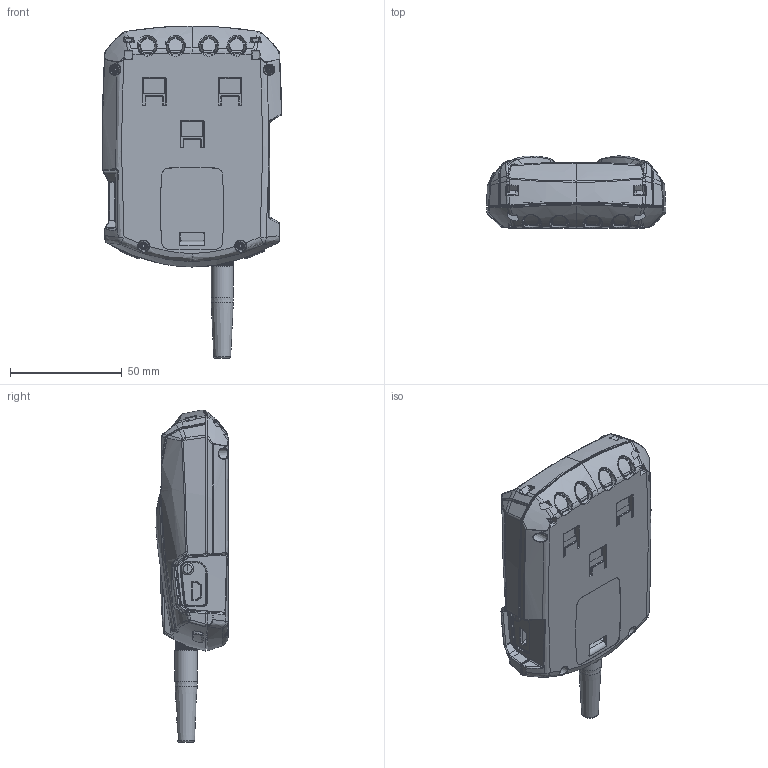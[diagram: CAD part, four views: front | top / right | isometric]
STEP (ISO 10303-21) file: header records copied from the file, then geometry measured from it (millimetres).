
FILE_DESCRIPTION(/* description */ (''),/* implementation_level */ '2;1');
FILE_NAME(/* name */ 'C:\Users\Zambolin\Desktop\PRODOTTI\MYALARM2-3\2D_3D\myalarm2.stp',/* time_stamp */ '2021-04-01T12:10:37+02:00',/* author */ ('zambolin'),/* organization */ (''),/* preprocessor_version */ 'ST-DEVELOPER v18',/* originating_system */ 'Autodesk Inventor 2020',/* authorisation */ '');
FILE_SCHEMA (('AUTOMOTIVE_DESIGN { 1 0 10303 214 3 1 1 }'));
Products named in the file (109): 16870100001; 16870102001_R1(Default_A macchina_); 16870102002_R1(Default_A macchina_); 16870102003_R1(Default_A macchina_); 16870102010(Default_A macchina_); Scheda MY ALARM full(Default_A macchina_); Scheda MY ALARM full(Default_A macchina_)_1; Scheda MY ALARM full(Default_A macchina_)_2; Scheda MY ALARM full(Default_A macchina_)_3; Scheda MY ALARM full(Default_A macchina_)_4; Scheda MY ALARM full(Default_A macchina_)_5; Scheda MY ALARM full(Default_A macchina_)_6; Scheda MY ALARM full(Default_A macchina_)_7; Scheda MY ALARM full(Default_A macchina_)_8; Scheda MY ALARM full(Default_A macchina_)_9; Scheda MY ALARM full(Default_A macchina_)_10; Scheda MY ALARM full(Default_A macchina_)_11; Scheda MY ALARM full(Default_A macchina_)_12; Scheda MY ALARM full(Default_A macchina_)_13; Scheda MY ALARM full(Default_A macchina_)_14; Scheda MY ALARM full(Default_A macchina_)_15; Scheda MY ALARM full(Default_A macchina_)_16; Scheda MY ALARM full(Default_A macchina_)_17; Scheda MY ALARM full(Default_A macchina_)_18; Scheda MY ALARM full(Default_A macchina_)_19; Scheda MY ALARM full(Default_A macchina_)_20; Scheda MY ALARM full(Default_A macchina_)_22; Scheda MY ALARM full(Default_A macchina_)_23; Scheda MY ALARM full(Default_A macchina_)_24; Scheda MY ALARM full(Default_A macchina_)_25; Scheda MY ALARM full(Default_A macchina_)_26; Scheda MY ALARM full(Default_A macchina_)_27; Scheda MY ALARM full(Default_A macchina_)_28; Scheda MY ALARM full(Default_A macchina_)_29; Scheda MY ALARM full(Default_A macchina_)_30; Scheda MY ALARM full(Default_A macchina_)_31; Scheda MY ALARM full(Default_A macchina_)_32; Scheda MY ALARM full(Default_A macchina_)_33; Scheda MY ALARM full(Default_A macchina_)_34; Scheda MY ALARM full(Default_A macchina_)_35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
Assembly tree (108 placements, depth 2):
  16870100001
    16870102001_R1(Default_A macchina_)
    16870102002_R1(Default_A macchina_)
    16870102003_R1(Default_A macchina_)
    16870102010(Default_A macchina_)
    Scheda MY ALARM full(Default_A macchina_)
    Scheda MY ALARM full(Default_A macchina_)_1
    Scheda MY ALARM full(Default_A macchina_)_2
    Scheda MY ALARM full(Default_A macchina_)_3
    Scheda MY ALARM full(Default_A macchina_)_4
    Scheda MY ALARM full(Default_A macchina_)_5
    Scheda MY ALARM full(Default_A macchina_)_6
    Scheda MY ALARM full(Default_A macchina_)_7
    Scheda MY ALARM full(Default_A macchina_)_8
    Scheda MY ALARM full(Default_A macchina_)_9
    Scheda MY ALARM full(Default_A macchina_)_10
    Scheda MY ALARM full(Default_A macchina_)_11
    Scheda MY ALARM full(Default_A macchina_)_12
    Scheda MY ALARM full(Default_A macchina_)_13
    Scheda MY ALARM full(Default_A macchina_)_14
    Scheda MY ALARM full(Default_A macchina_)_15
    Scheda MY ALARM full(Default_A macchina_)_16
    Scheda MY ALARM full(Default_A macchina_)_17
    Scheda MY ALARM full(Default_A macchina_)_18
    Scheda MY ALARM full(Default_A macchina_)_19
    Scheda MY ALARM full(Default_A macchina_)_20
    Scheda MY ALARM full(Default_A macchina_)_22
    Scheda MY ALARM full(Default_A macchina_)_23
    Scheda MY ALARM full(Default_A macchina_)_24
    Scheda MY ALARM full(Default_A macchina_)_25
    Scheda MY ALARM full(Default_A macchina_)_26
    Scheda MY ALARM full(Default_A macchina_)_27
    Scheda MY ALARM full(Default_A macchina_)_28
    Scheda MY ALARM full(Default_A macchina_)_29
    Scheda MY ALARM full(Default_A macchina_)_30
    Scheda MY ALARM full(Default_A macchina_)_31
    Scheda MY ALARM full(Default_A macchina_)_32
    Scheda MY ALARM full(Default_A macchina_)_33
    Scheda MY ALARM full(Default_A macchina_)_34
    Scheda MY ALARM full(Default_A macchina_)_35
    Scheda MY ALARM full(Default_A macchina_)_36
    Scheda MY ALARM full(Default_A macchina_)_37
    Scheda MY ALARM full(Default_A macchina_)_38
    Scheda MY ALARM full(Default_A macchina_)_39
    Scheda MY ALARM full(Default_A macchina_)_40
    Scheda MY ALARM full(Default_A macchina_)_41
    Scheda MY ALARM full(Default_A macchina_)_42
    Scheda MY ALARM full(Default_A macchina_)_43
    Scheda MY ALARM full(Default_A macchina_)_44
    Scheda MY ALARM full(Default_A macchina_)_45
    Scheda MY ALARM full(Default_A macchina_)_46
    Scheda MY ALARM full(Default_A macchina_)_47
    Scheda MY ALARM full(Default_A macchina_)_48
    Scheda MY ALARM full(Default_A macchina_)_49
    Scheda MY ALARM full(Default_A macchina_)_50
    Scheda MY ALARM full(Default_A macchina_)_51
    Scheda MY ALARM full(Default_A macchina_)_52
    Scheda MY ALARM full(Default_A macchina_)_53
    Scheda MY ALARM full(Default_A macchina_)_54
    Scheda MY ALARM full(Default_A macchina_)_55
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Bounding box: 80.42 x 32.27 x 148.74 mm (x, y, z)
Volume: 78673.6 mm3; surface area: 92652.6 mm2
Topology: 108 solids, 108 shells, 4215 faces, 10403 edges, 6354 vertices
Faces by surface type: bspline 2083, plane 1274, cylinder 686, cone 64, torus 60, sphere 48
Full cylindrical faces by diameter (mm): 2 x28, 2.4 x10, 2.7 x1, 2.9 x2, 3 x10, 5.3 x2, 6.25 x1, 9 x1, 10 x1
Entity records: 199587 total; most frequent: CARTESIAN_POINT 103060, ORIENTED_EDGE 20714, DIRECTION 15648, EDGE_CURVE 10357, VERTEX_POINT 6354, AXIS2_PLACEMENT_3D 5974, EDGE_LOOP 4319, FACE_OUTER_BOUND 4215
